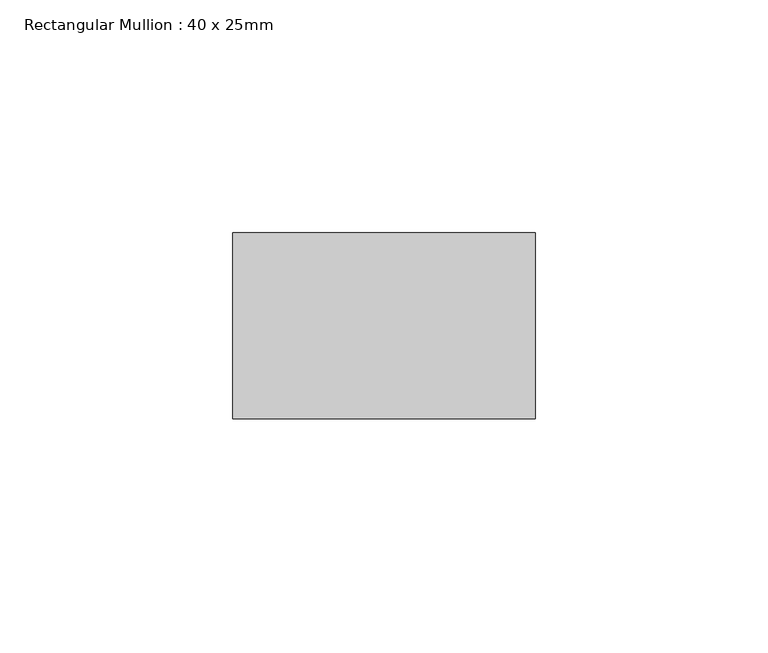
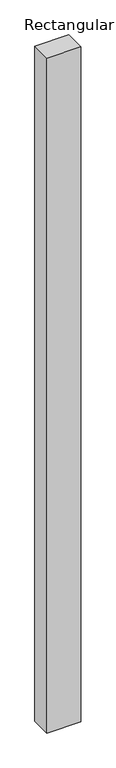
"""IFC4 building model written with IfcOpenShell, lengths in millimetres: member geometry, Rectangular Mullion : 40 x 25mm."""

import ifcopenshell
import ifcopenshell.guid

model = None  # the IFC model being written
_history = None  # IfcOwnerHistory: only IFC2X3 demands one
_inside = {}  # id of a spatial element -> (the spatial element, [elements in it])
_under = {}  # id of a project, library or spatial element -> (it, [spatial elements below it])
_declared = {}  # id of a project -> (the project, [libraries it declares])
_typed = {}  # id of a type object -> (the type object, [elements of that type])
_made_of = {}  # id of a material, layer set ... -> (it, [elements and type objects made of it])


def new_model(schema):
    """Start an empty IFC model of exactly this schema.

    Asked for "IFC4X3", IfcOpenShell would pick the latest addendum, in which some entities
    have other attributes; the version numbers below select the first issue.
    IFC2X3 requires an IfcOwnerHistory on every rooted entity: one is made here for all.
    """
    global model, _history
    if schema == "IFC4X3":
        model = ifcopenshell.file(schema_version=(4, 3, 0, 0))
    else:
        model = ifcopenshell.file(schema=schema)
    _inside.clear()
    _under.clear()
    _declared.clear()
    _typed.clear()
    _made_of.clear()
    _history = None
    if model.schema == "IFC2X3":
        org = make("IfcOrganization", Name="unknown")
        user = make(
            "IfcPersonAndOrganization",
            ThePerson=make("IfcPerson", FamilyName="unknown"),
            TheOrganization=org,
        )
        app = make(
            "IfcApplication",
            ApplicationDeveloper=org,
            Version="unknown",
            ApplicationFullName="unknown",
            ApplicationIdentifier="unknown",
        )
        _history = make(
            "IfcOwnerHistory",
            OwningUser=user,
            OwningApplication=app,
            ChangeAction="ADDED",
            CreationDate=0,
        )
    return model


def make(cls, **values):
    """One entity of the class cls with the attributes given. An attribute that is None is left unset."""
    return model.create_entity(
        cls, **{name: value for name, value in values.items() if value is not None}
    )


def rooted(cls, **values):
    """An entity with a GlobalId (a new one), such as an element, a storey or a relation."""
    return make(cls, GlobalId=ifcopenshell.guid.new(), OwnerHistory=_history, **values)


def si_unit(unit_type, name, prefix=None):
    """IfcSIUnit, for example si_unit("LENGTHUNIT", "METRE", prefix="MILLI")."""
    return make("IfcSIUnit", UnitType=unit_type, Prefix=prefix, Name=name)


def assignment(units):
    """IfcUnitAssignment: the units of a project."""
    return None if units is None else make("IfcUnitAssignment", Units=units)


def point(xyz):
    """IfcCartesianPoint."""
    return None if xyz is None else make("IfcCartesianPoint", Coordinates=xyz)


def direction(xyz):
    """IfcDirection."""
    return None if xyz is None else make("IfcDirection", DirectionRatios=xyz)


def frame(location, z_axis=None, x_axis=None):
    """IfcAxis2Placement3D, a coordinate frame: its origin and axes. An axis left out is left unset."""
    return make(
        "IfcAxis2Placement3D",
        Location=point(location),
        Axis=direction(z_axis),
        RefDirection=direction(x_axis),
    )


def origin():
    """The frame at (0, 0, 0) with its axes left unset."""
    return frame((0.0, 0.0, 0.0))


def place(relative_to, where):
    """IfcLocalPlacement: puts the frame where relative to a parent placement (None: the world)."""
    return make(
        "IfcLocalPlacement", PlacementRelTo=relative_to, RelativePlacement=where
    )


def context(
    kind, dimensions, precision=None, world=None, true_north=None, identifier=None
):
    """IfcGeometricRepresentationContext, for example the 3D "Model" context."""
    return make(
        "IfcGeometricRepresentationContext",
        ContextIdentifier=identifier,
        ContextType=kind,
        CoordinateSpaceDimension=dimensions,
        Precision=precision,
        WorldCoordinateSystem=world,
        TrueNorth=true_north,
    )


def project(units=None, contexts=None):
    """IfcProject with its units and contexts."""
    return rooted(
        "IfcProject",
        Name="project",
        RepresentationContexts=contexts,
        UnitsInContext=assignment(units),
    )


def spatial(cls, under=None, at=None, **own):
    """A site, building, storey or space (cls), placed at a placement, below another one or the project."""
    s = rooted(cls, ObjectPlacement=at, **own)
    if under is not None:
        _under.setdefault(under.id(), (under, []))[1].append(s)
    return s


def polyline(points):
    """IfcPolyline through the points."""
    return make("IfcPolyline", Points=[point(p) for p in points])


def outline(outer, holes=None, kind="AREA"):
    """IfcArbitraryClosedProfileDef: a profile drawn as a closed curve; with holes, ...WithVoids."""
    if holes is None:
        return make("IfcArbitraryClosedProfileDef", ProfileType=kind, OuterCurve=outer)
    return make(
        "IfcArbitraryProfileDefWithVoids",
        ProfileType=kind,
        OuterCurve=outer,
        InnerCurves=holes,
    )


def extrude(swept, where, along, depth):
    """IfcExtrudedAreaSolid: the profile swept, set in the frame where, extruded along a direction by depth."""
    return make(
        "IfcExtrudedAreaSolid",
        SweptArea=swept,
        Position=where,
        ExtrudedDirection=direction(along),
        Depth=depth,
    )


def shape(context_of_items, identifier, shape_type, items):
    """IfcShapeRepresentation: the items that make up one representation, for example the "Body"."""
    return make(
        "IfcShapeRepresentation",
        ContextOfItems=context_of_items,
        RepresentationIdentifier=identifier,
        RepresentationType=shape_type,
        Items=items,
    )


def source(mapping_origin, context_of_items, identifier, shape_type, items):
    """IfcRepresentationMap: a shape defined once, which mapped items show again and again."""
    return make(
        "IfcRepresentationMap",
        MappingOrigin=mapping_origin,
        MappedRepresentation=shape(context_of_items, identifier, shape_type, items),
    )


def transform(
    local_origin,
    x_axis=None,
    y_axis=None,
    z_axis=None,
    scale=None,
    scale2=None,
    scale3=None,
    uniform=True,
):
    """IfcCartesianTransformationOperator3D, or its non-uniform kind. x_axis, y_axis, z_axis: its Axis1, 2, 3."""
    if uniform:
        return make(
            "IfcCartesianTransformationOperator3D",
            Axis1=direction(x_axis),
            Axis2=direction(y_axis),
            LocalOrigin=point(local_origin),
            Scale=scale,
            Axis3=direction(z_axis),
        )
    return make(
        "IfcCartesianTransformationOperator3DnonUniform",
        Axis1=direction(x_axis),
        Axis2=direction(y_axis),
        LocalOrigin=point(local_origin),
        Scale=scale,
        Axis3=direction(z_axis),
        Scale2=scale2,
        Scale3=scale3,
    )


def mapped(mapping_source, mapping_target):
    """IfcMappedItem: shows the shape of a source again, moved by a transform."""
    return make(
        "IfcMappedItem", MappingSource=mapping_source, MappingTarget=mapping_target
    )


def made_of(thing, what):
    """Note that an element or type object is made of a material, layer set ...; save() writes the relation."""
    if what is not None:
        _made_of.setdefault(what.id(), (what, []))[1].append(thing)
    return thing


def element(
    cls,
    number,
    at=None,
    inside=None,
    cuts=None,
    type_object=None,
    material=None,
    context=None,
    identifier="Body",
    shape_type=None,
    held_by="IfcProductDefinitionShape",
    body=None,
    shapes=None,
    **own,
):
    """One element of the class cls, such as IfcWall. Its Tag is "e" and its number.

    at: its placement. inside: the storey or other place that contains it. cuts: it is an
    opening in that element (IfcRelVoidsElement). A single representation is given by context,
    identifier, shape_type and body (its items); several are given by shapes. held_by: the class
    of the entity that holds the representations. save() writes the other relations.
    """
    e = rooted(cls, Tag="e%d" % number, ObjectPlacement=at, **own)
    if body is not None:
        shapes = [shape(context, identifier, shape_type, body)]
    if shapes is not None:
        e.Representation = make(held_by, Representations=shapes)
    if inside is not None:
        _inside.setdefault(inside.id(), (inside, []))[1].append(e)
    if cuts is not None:
        rooted(
            "IfcRelVoidsElement", RelatingBuildingElement=cuts, RelatedOpeningElement=e
        )
    if type_object is not None:
        _typed.setdefault(type_object.id(), (type_object, []))[1].append(e)
    return made_of(e, material)


def aggregate(whole, parts):
    """IfcRelAggregates: a whole, such as a stair, and the parts it consists of."""
    return rooted("IfcRelAggregates", RelatingObject=whole, RelatedObjects=parts)


def save(model, path):
    """Write the relations noted so far, then the file.

    IfcRelAggregates (storeys below a building ...), IfcRelContainedInSpatialStructure (elements
    in a storey), IfcRelDefinesByType, IfcRelAssociatesMaterial and IfcRelDeclares: one each for
    every whole, place, type object, material and project.
    """
    for whole, parts in _under.values():
        aggregate(whole, parts)
    for where, things in _inside.values():
        rooted(
            "IfcRelContainedInSpatialStructure",
            RelatedElements=things,
            RelatingStructure=where,
        )
    for kind, things in _typed.values():
        rooted("IfcRelDefinesByType", RelatedObjects=things, RelatingType=kind)
    for what, things in _made_of.values():
        rooted("IfcRelAssociatesMaterial", RelatedObjects=things, RelatingMaterial=what)
    for by, libraries in _declared.values():
        rooted("IfcRelDeclares", RelatingContext=by, RelatedDefinitions=libraries)
    model.write(path)


def rectangular_mullion_40_x_25mm_05890a7e(model_context):
    return source(origin(), model_context, "Body", "SweptSolid", [
        extrude(outline(polyline([(40.0, -20.0), (40.0, -60.0), (-25.0, -60.0), (-25.0, -20.0), (40.0, -20.0)])), frame((0.0, 0.0, -1366.4208281), z_axis=(0.0, 0.0, 1.0), x_axis=(1.0, 0.0, 0.0)), (0.0, 0.0, 1.0), 1366.4208281),
    ])


if __name__ == "__main__":
    model = new_model("IFC4")
    model_context = context("Model", 3, world=origin())
    ifc_project = project(units=[si_unit("LENGTHUNIT", "METRE", prefix="MILLI")], contexts=[model_context])
    site = spatial("IfcSite", under=ifc_project)
    building = spatial("IfcBuilding", under=site)
    placement = place(None, origin())
    rectangular_mullion_40_x_25mm_shape = rectangular_mullion_40_x_25mm_05890a7e(model_context)
    element("IfcMember", 1, ObjectType="Rectangular Mullion : 40 x 25mm", at=placement, inside=building, context=model_context, shape_type="MappedRepresentation", body=[
        mapped(rectangular_mullion_40_x_25mm_shape, transform((0.0, 0.0, 0.0), x_axis=(1.0, 0.0, 0.0), y_axis=(0.0, 1.0, 0.0), z_axis=(0.0, 0.0, 1.0))),
    ])
    save(model, "model.ifc")
